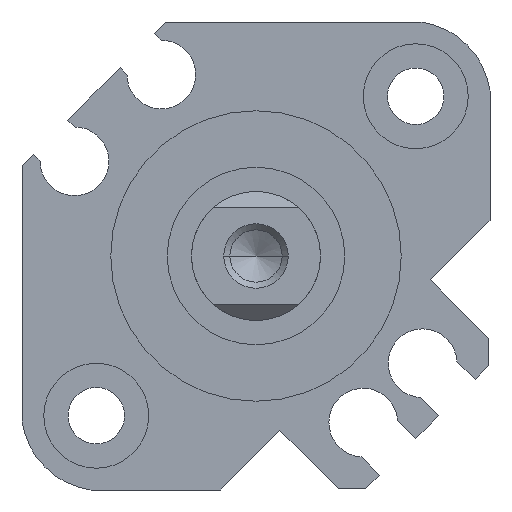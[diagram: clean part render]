
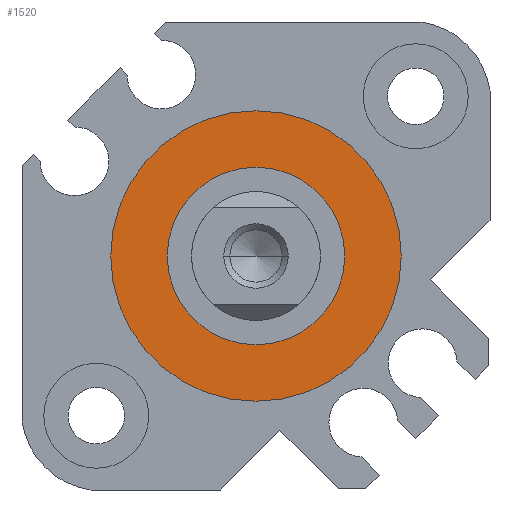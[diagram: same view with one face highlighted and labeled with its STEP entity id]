
A CAD part, left-side view. The second image highlights one B-rep face of the part: STEP entity #1520.
In plain terms, the highlighted planar face has unit normal (-1, 0, 0).
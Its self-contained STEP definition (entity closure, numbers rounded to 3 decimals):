
#11 = VERTEX_POINT ( 'NONE', #3360 ) ;
#12 = CARTESIAN_POINT ( 'NONE',  ( 1.1, 0., -5.5 ) ) ;
#165 = DIRECTION ( 'NONE',  ( 1., 0., 0. ) ) ;
#230 = ORIENTED_EDGE ( 'NONE', *, *, #2112, .T. ) ;
#328 = CIRCLE ( 'NONE', #3319, 9. ) ;
#467 = ORIENTED_EDGE ( 'NONE', *, *, #1959, .T. ) ;
#470 = CARTESIAN_POINT ( 'NONE',  ( 1.1, 0., 0. ) ) ;
#474 = FACE_BOUND ( 'NONE', #1134, .T. ) ;
#481 = AXIS2_PLACEMENT_3D ( 'NONE', #2345, #165, #2023 ) ;
#491 = CARTESIAN_POINT ( 'NONE',  ( 1.1, 0., 0. ) ) ;
#493 = CIRCLE ( 'NONE', #1222, 5.5 ) ;
#627 = AXIS2_PLACEMENT_3D ( 'NONE', #3421, #1528, #1057 ) ;
#860 = CIRCLE ( 'NONE', #2791, 9. ) ;
#880 = CARTESIAN_POINT ( 'NONE',  ( 1.1, 0., -9. ) ) ;
#912 = VERTEX_POINT ( 'NONE', #935 ) ;
#935 = CARTESIAN_POINT ( 'NONE',  ( 1.1, 0., 9. ) ) ;
#1057 = DIRECTION ( 'NONE',  ( 0., 1., 0. ) ) ;
#1134 = EDGE_LOOP ( 'NONE', ( #467, #230 ) ) ;
#1222 = AXIS2_PLACEMENT_3D ( 'NONE', #470, #2600, #1320 ) ;
#1320 = DIRECTION ( 'NONE',  ( 0., 0., -1. ) ) ;
#1483 = DIRECTION ( 'NONE',  ( 1., 0., 0. ) ) ;
#1487 = EDGE_CURVE ( 'NONE', #1720, #912, #860, .T. ) ;
#1520 = ADVANCED_FACE ( 'NONE', ( #1830, #474 ), #2587, .F. ) ;
#1528 = DIRECTION ( 'NONE',  ( 1., 0., 0. ) ) ;
#1618 = VERTEX_POINT ( 'NONE', #12 ) ;
#1720 = VERTEX_POINT ( 'NONE', #880 ) ;
#1778 = CARTESIAN_POINT ( 'NONE',  ( 1.1, 0., 0. ) ) ;
#1780 = DIRECTION ( 'NONE',  ( 0., 0., -1. ) ) ;
#1796 = DIRECTION ( 'NONE',  ( 1., 0., 0. ) ) ;
#1830 = FACE_OUTER_BOUND ( 'NONE', #2876, .T. ) ;
#1912 = ORIENTED_EDGE ( 'NONE', *, *, #2084, .F. ) ;
#1959 = EDGE_CURVE ( 'NONE', #11, #1618, #493, .T. ) ;
#2023 = DIRECTION ( 'NONE',  ( 0., 0., -1. ) ) ;
#2084 = EDGE_CURVE ( 'NONE', #912, #1720, #328, .T. ) ;
#2112 = EDGE_CURVE ( 'NONE', #1618, #11, #3310, .T. ) ;
#2345 = CARTESIAN_POINT ( 'NONE',  ( 1.1, 0., 0. ) ) ;
#2587 = PLANE ( 'NONE',  #627 ) ;
#2600 = DIRECTION ( 'NONE',  ( 1., 0., 0. ) ) ;
#2791 = AXIS2_PLACEMENT_3D ( 'NONE', #1778, #1796, #2848 ) ;
#2811 = ORIENTED_EDGE ( 'NONE', *, *, #1487, .F. ) ;
#2848 = DIRECTION ( 'NONE',  ( 0., 0., -1. ) ) ;
#2876 = EDGE_LOOP ( 'NONE', ( #1912, #2811 ) ) ;
#3310 = CIRCLE ( 'NONE', #481, 5.5 ) ;
#3319 = AXIS2_PLACEMENT_3D ( 'NONE', #491, #1483, #1780 ) ;
#3360 = CARTESIAN_POINT ( 'NONE',  ( 1.1, 0., 5.5 ) ) ;
#3421 = CARTESIAN_POINT ( 'NONE',  ( 1.1, 0., 0. ) ) ;
